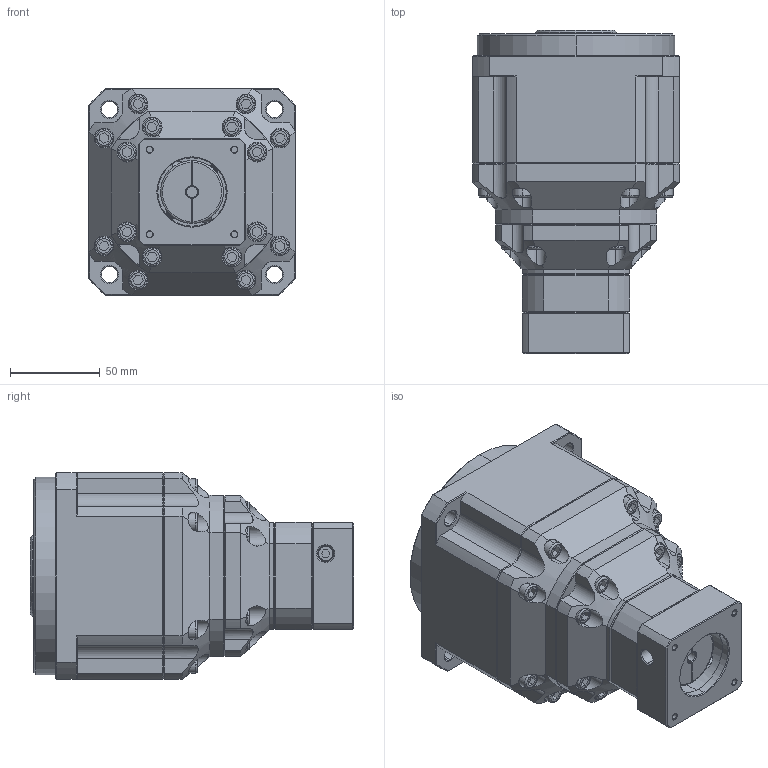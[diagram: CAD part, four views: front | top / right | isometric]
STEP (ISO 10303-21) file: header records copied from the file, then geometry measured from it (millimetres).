
FILE_DESCRIPTION (( 'STEP AP214' ), '1' );
FILE_NAME ('ZPB115-K32-L3-P1-6.35-38.1-47.14X47.14-M4.step', '2024-06-12T10:03:28', ( 'Windows 蚚誧' ), ( 'Organization' ), 'SwSTEP 2.0', 'SolidWorks 2016', '' );
FILE_SCHEMA (( 'AUTOMOTIVE_DESIGN' ));
Length unit declared in the file: millimetre
Products named in the file (1): ZPB115-K32-L3-P1-6.35-38.1-47.14X47.14-M4
Bounding box: 115 x 180 x 115 mm (x, y, z)
Surface area: 107289.6 mm2 (no closed solid volume)
Topology: 0 solids, 2 shells, 1928 faces, 5153 edges, 3341 vertices
Faces by surface type: plane 1119, bspline 407, cylinder 233, cone 169
Entity records: 93950 total; most frequent: CARTESIAN_POINT 40685, ORIENTED_EDGE 10304, DIRECTION 7746, EDGE_CURVE 5153, VECTOR 3394, LINE 3394, VERTEX_POINT 3341, AXIS2_PLACEMENT_3D 2176
